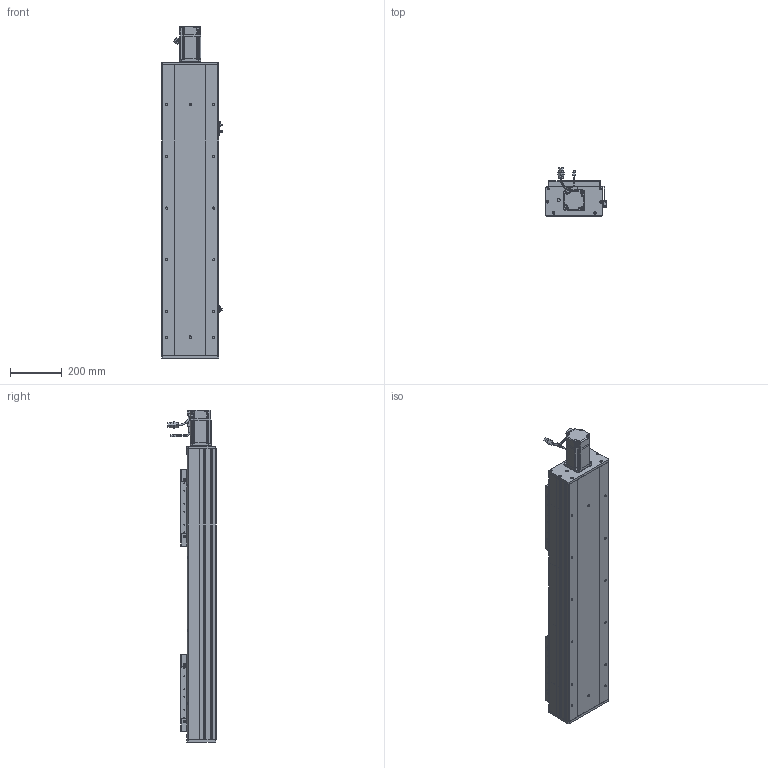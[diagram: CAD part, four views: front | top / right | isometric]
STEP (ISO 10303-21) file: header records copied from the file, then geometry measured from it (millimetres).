
FILE_DESCRIPTION (( 'STEP AP203' ), '1' );
FILE_NAME ('RY220F-L2525-300-MK.SLDASM_700.step', '2022-07-04T01:03:31', ( '' ), ( '' ), 'SwSTEP 2.0', 'SolidWorks 2016', '' );
FILE_SCHEMA (( 'CONFIG_CONTROL_DESIGN' ));
Length unit declared in the file: millimetre
Products named in the file (15): RY220Fヶ裔啣; 怢湛750W_ECMA-CX0807ES; 覜茼ん672; RY220F綴裔啣; RY220F-滅鳥奻裔; 滅袉蝶18-20; 滅袉蝶18-24; RY220F-L2525-300-MK.SLDASM_700; RY220F臏賑釱25-32佪裝; RY220F-祥凄詩湍-MK-300_700; RY220F-詩湍揤踡輸; RY220F-奻裔啣-300_700; RY220F-672覜茼んえ; RY220电机支撑座FK20（PCD90M6）; RY220F菁釱MK-300_700
Assembly tree (23 placements, depth 2):
  RY220F-L2525-300-MK.SLDASM_700
    RY220F菁釱MK-300_700
    RY220电机支撑座FK20（PCD90M6）
    RY220F-奻裔啣-300_700  x2
    怢湛750W_ECMA-CX0807ES
    RY220F臏賑釱25-32佪裝  x2
    RY220F-滅鳥奻裔  x2
    滅袉蝶18-20
    滅袉蝶18-24  x3
    RY220Fヶ裔啣
    RY220F綴裔啣
    RY220F-祥凄詩湍-MK-300_700
    RY220F-詩湍揤踡輸  x2
    覜茼ん672  x3
    RY220F-672覜茼んえ  x2
Bounding box: 233.7 x 187.27 x 1284.3 mm (x, y, z)
Volume: 12864563.1 mm3; surface area: 3131084 mm2
Topology: 24 solids, 24 shells, 2706 faces, 7422 edges, 4608 vertices
Faces by surface type: cylinder 1218, plane 1030, cone 395, bspline 37, sphere 16, torus 10
Entity records: 67434 total; most frequent: CARTESIAN_POINT 18236, ORIENTED_EDGE 9986, DIRECTION 9662, EDGE_CURVE 4993, AXIS2_PLACEMENT_3D 3427, VERTEX_POINT 3248, VECTOR 2808, LINE 2808
